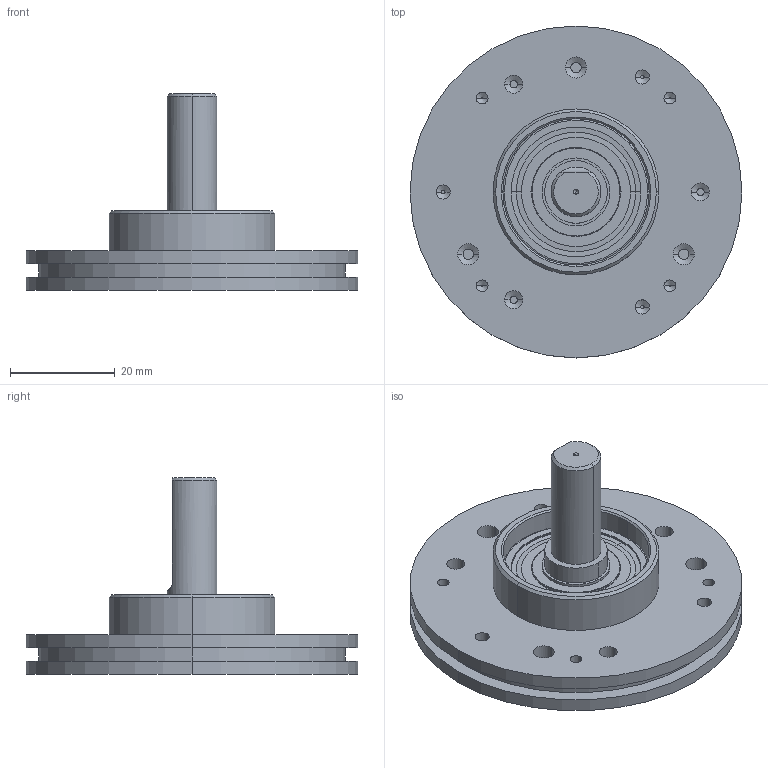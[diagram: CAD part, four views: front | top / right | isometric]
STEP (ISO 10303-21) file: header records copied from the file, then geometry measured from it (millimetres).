
FILE_DESCRIPTION (( 'STEP AP214' ), '1' );
FILE_NAME ('drawing-mcd-a7p0-q5a-n.STEP', '2025-03-19T15:40:07', ( '' ), ( '' ), 'SwSTEP 2.0', 'SolidWorks 2024', '' );
FILE_SCHEMA (( 'AUTOMOTIVE_DESIGN' ));
Length unit declared in the file: millimetre
Products named in the file (1): drawing-mcd-a7p0-q5a-n
Bounding box: 63.5 x 63.5 x 37.64 mm (x, y, z)
Volume: 26002 mm3; surface area: 16943.7 mm2
Topology: 13 solids, 14 shells, 207 faces, 441 edges, 249 vertices
Faces by surface type: cylinder 75, cone 56, bspline 42, plane 34
Entity records: 6336 total; most frequent: CARTESIAN_POINT 1910, DIRECTION 977, ORIENTED_EDGE 810, AXIS2_PLACEMENT_3D 422, EDGE_CURVE 405, CIRCLE 256, VERTEX_POINT 249, EDGE_LOOP 238
